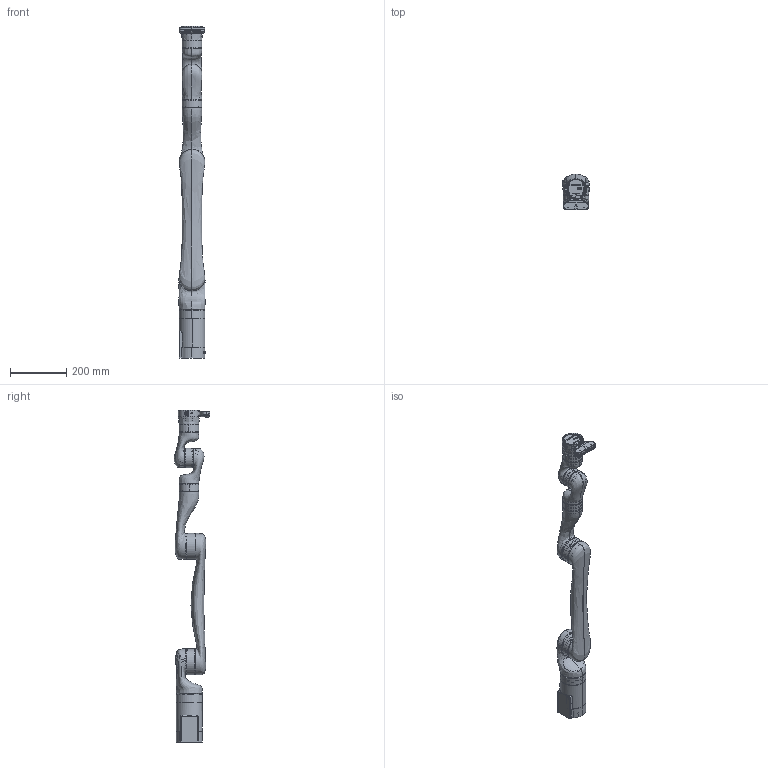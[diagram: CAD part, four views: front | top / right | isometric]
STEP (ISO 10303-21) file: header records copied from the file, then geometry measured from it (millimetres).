
FILE_DESCRIPTION (( 'STEP AP214' ), '1' );
FILE_NAME ('GEN3_6DOF_SPHERICAL_VISION_V01.STEP', '2020-03-03T21:06:54', ( '' ), ( '' ), 'SwSTEP 2.0', 'SolidWorks 2018', '' );
FILE_SCHEMA (( 'AUTOMOTIVE_DESIGN' ));
Length unit declared in the file: millimetre
Products named in the file (38): Bicep_Control; GEN3 SIMPLIFIED VISION with interface NO GRIPPER NO CAP; KR12943; GEN3 EMPTY SIMPLIFIED END EFFECTOR; GEN3 SIMPLIFIED Spherical Wrist1; KR10643; GEN3_6DOF_SPHERICAL_VISION_V01; GEN3 SIMPLIFIED BICEP; GEN3 SIMPLIFIED BASE; GEN3 SIMPLIFIED FOREARM; GEN3 SIMPLIFIED SHOULDER; GEN3 SIMPLIFIED BIG RA RING ; GEN3 SIMPLIFIED Forearm; GEN3 SIMPLIFIED Vision; GEN3 SIMPLIFIED WRIST 2; GEN3 SIMPLIFIED Spherical Wrist2; GEN3 SIMPLIFIED WRIST 1
Assembly tree (25 placements, depth 3):
  Bicep_Control
  GEN3 SIMPLIFIED VISION with interface NO GRIPPER NO CAP
  GEN3 EMPTY SIMPLIFIED END EFFECTOR
  KR10643
  GEN3_6DOF_SPHERICAL_VISION_V01
    GEN3 SIMPLIFIED BASE
    GEN3 SIMPLIFIED SHOULDER
      GEN3 SIMPLIFIED SHOULDER
      KR10643  x2
    GEN3 SIMPLIFIED BICEP
      Bicep_Control
      KR10643  x2
      GEN3 SIMPLIFIED BIG RA RING 
    GEN3 SIMPLIFIED Forearm
      GEN3 SIMPLIFIED FOREARM
      KR10643
      KR12943
    GEN3 SIMPLIFIED Spherical Wrist1
      GEN3 SIMPLIFIED WRIST 1
      KR12943  x2
    GEN3 SIMPLIFIED Spherical Wrist2
      GEN3 SIMPLIFIED WRIST 2
      KR12943  x2
    GEN3 SIMPLIFIED Vision
      GEN3 SIMPLIFIED VISION with interface NO GRIPPER NO CAP
      KR12943
Bounding box: 92.81 x 127.84 x 1179.5 mm (x, y, z)
Volume: 3083332.6 mm3; surface area: 910440.5 mm2
Topology: 33 solids, 50 shells, 1982 faces, 4829 edges, 2992 vertices
Faces by surface type: cylinder 630, plane 481, cone 359, bspline 296, torus 212, sphere 4
Entity records: 266958 total; most frequent: CARTESIAN_POINT 208348, ORIENTED_EDGE 9406, DIRECTION 8874, EDGE_CURVE 4703, AXIS2_PLACEMENT_3D 3533, VERTEX_POINT 2940, EDGE_LOOP 2167, FACE_OUTER_BOUND 1930
